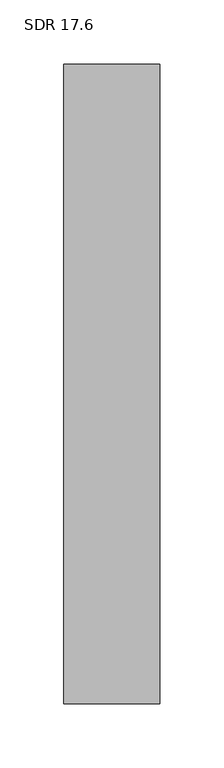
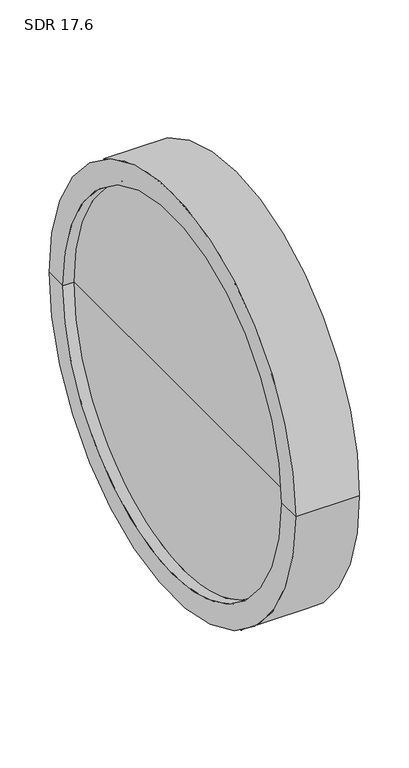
"""IFC4 building model written with IfcOpenShell, lengths in millimetres: pipe fitting geometry, Aquatherm - End Cap Butt-Weld : SDR 17.6."""

from ifc_helpers import new_model, si_unit, frame, origin, place, context, project, spatial, polyline, circle_curve, source, transform, mapped, element, save
from ifc_brep_helpers import plane_surface, cylinder_surface, revolved_surface, advanced_brep


def sdr_17_6_1d841794(model_context):
    return source(origin(), model_context, "Body", "AdvancedBrep", [
        advanced_brep(
        [(74.93, -250.19, 0.0), (74.93, 250.19, 0.0), (74.93, 0.0, 0.0), (12.954, 0.0, 0.0), (12.954, 222.25, 0.0), (12.954, -222.25, 0.0), (0.0, 222.25, 0.0), (0.0, -222.25, 0.0), (0.0, 250.19, 0.0), (0.0, -250.19, 0.0)],
        [
            (0, 1, circle_curve(frame((74.93, 0.0, 0.0), z_axis=(1.0, 0.0, 0.0), x_axis=(0.0, 1.0, 0.0)), 250.19)),
            (1, 2),
            (2, 0),
            (1, 0, circle_curve(frame((74.93, 0.0, 0.0), z_axis=(1.0, 0.0, 0.0), x_axis=(0.0, 1.0, 0.0)), 250.19)),
            (3, 4),
            (4, 5, circle_curve(frame((12.954, 0.0, 0.0), z_axis=(-1.0, 0.0, 0.0), x_axis=(0.0, 1.0, 0.0)), 222.25)),
            (5, 3),
            (5, 4, circle_curve(frame((12.954, 0.0, 0.0), z_axis=(-1.0, 0.0, 0.0), x_axis=(0.0, 1.0, 0.0)), 222.25)),
            (4, 6),
            (6, 7, circle_curve(frame((0.0, 0.0, 0.0), z_axis=(-1.0, 0.0, 0.0), x_axis=(0.0, 1.0, 0.0)), 222.25)),
            (7, 5),
            (7, 6, circle_curve(frame((0.0, 0.0, 0.0), z_axis=(-1.0, 0.0, 0.0), x_axis=(0.0, 1.0, 0.0)), 222.25)),
            (6, 8),
            (8, 9, circle_curve(frame((0.0, 0.0, 0.0), z_axis=(-1.0, 0.0, 0.0), x_axis=(0.0, 1.0, 0.0)), 250.19)),
            (9, 7),
            (9, 8, circle_curve(frame((0.0, 0.0, 0.0), z_axis=(-1.0, 0.0, 0.0), x_axis=(0.0, 1.0, 0.0)), 250.19)),
            (8, 1),
            (0, 9),
        ],
        [
            plane_surface(frame((74.93, 0.0, 0.0), z_axis=(1.0, 0.0, 0.0), x_axis=(0.0, 1.0, 0.0))),
            plane_surface(frame((12.954, 0.0, 0.0), z_axis=(-1.0, 0.0, 0.0), x_axis=(0.0, 1.0, 0.0))),
            revolved_surface(polyline([(0.0, 222.25, 0.0), (12.95399999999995, 222.25, 0.0)]), (-1369.06, 0.0, 0.0), (-1.0, 0.0, 0.0)),
            plane_surface(frame((0.0, 0.0, 0.0), z_axis=(-1.0, 0.0, 0.0), x_axis=(0.0, 1.0, 0.0))),
            cylinder_surface(frame((-1369.06, 0.0, 0.0), z_axis=(-1.0, 0.0, 0.0), x_axis=(0.0, 1.0, 0.0)), 250.19),
        ],
        [
            (0, [[1, 2, 3]]),
            (0, [[4, -3, -2]]),
            (1, [[5, 6, 7]]),
            (1, [[-7, 8, -5]]),
            (2, [[-6, 9, 10, 11]]),
            (2, [[-8, -11, 12, -9]]),
            (3, [[-10, 13, 14, 15]]),
            (3, [[-12, -15, 16, -13]]),
            (4, [[-14, 17, -1, 18]]),
            (4, [[-16, -18, -4, -17]]),
        ],
    ),
    ])


if __name__ == "__main__":
    model = new_model("IFC4")
    model_context = context("Model", 3, world=origin())
    ifc_project = project(units=[si_unit("LENGTHUNIT", "METRE", prefix="MILLI")], contexts=[model_context])
    site = spatial("IfcSite", under=ifc_project)
    building = spatial("IfcBuilding", under=site)
    placement = place(None, origin())
    sdr_17_6_shape = sdr_17_6_1d841794(model_context)
    element("IfcPipeFitting", 1, ObjectType="Aquatherm - End Cap Butt-Weld : SDR 17.6", at=placement, inside=building, context=model_context, shape_type="MappedRepresentation", body=[
        mapped(sdr_17_6_shape, transform((0.0, 0.0, 0.0), x_axis=(1.0, 0.0, 0.0), y_axis=(0.0, 1.0, 0.0), z_axis=(0.0, 0.0, 1.0))),
    ])
    save(model, "model.ifc")
